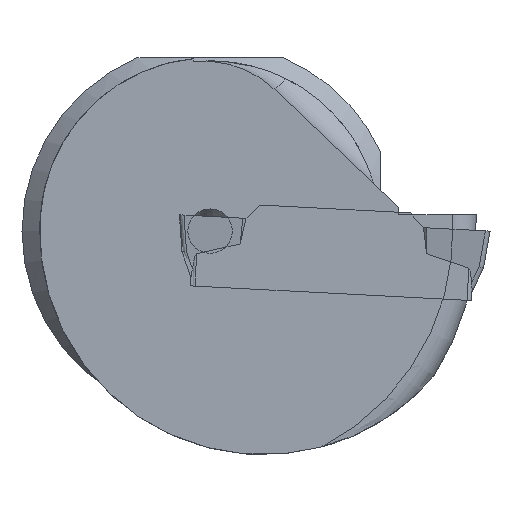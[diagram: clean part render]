
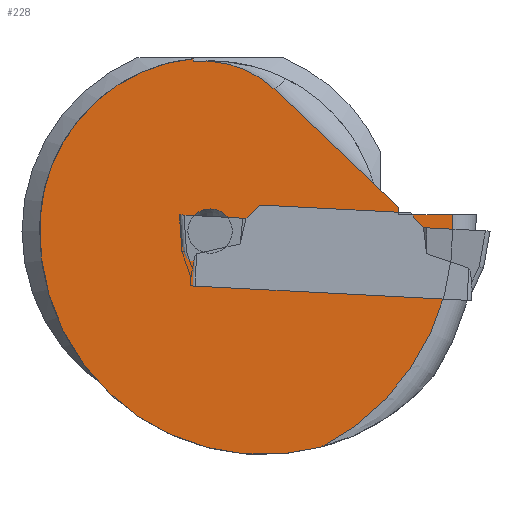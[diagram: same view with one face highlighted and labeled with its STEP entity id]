
A CAD part, left-side view. The second image highlights one B-rep face of the part: STEP entity #228.
In plain terms, the highlighted planar face has unit normal (-1, 0, 0).
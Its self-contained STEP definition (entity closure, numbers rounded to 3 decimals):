
#104=FACE_BOUND('',#376,.T.);
#105=FACE_BOUND('',#377,.T.);
#173=CIRCLE('',#1225,1.5);
#174=CIRCLE('',#1226,7.);
#175=CIRCLE('',#1227,11.5);
#176=CIRCLE('',#1228,15.1);
#177=CIRCLE('',#1229,16.4);
#228=ADVANCED_FACE('',(#104,#105),#278,.F.);
#278=PLANE('',#1230);
#376=EDGE_LOOP('',(#623));
#377=EDGE_LOOP('',(#624,#625,#626,#627,#628,#629,#630,#631));
#623=ORIENTED_EDGE('',*,*,#935,.T.);
#624=ORIENTED_EDGE('',*,*,#936,.T.);
#625=ORIENTED_EDGE('',*,*,#937,.T.);
#626=ORIENTED_EDGE('',*,*,#938,.T.);
#627=ORIENTED_EDGE('',*,*,#939,.F.);
#628=ORIENTED_EDGE('',*,*,#940,.T.);
#629=ORIENTED_EDGE('',*,*,#941,.F.);
#630=ORIENTED_EDGE('',*,*,#942,.T.);
#631=ORIENTED_EDGE('',*,*,#943,.T.);
#800=VERTEX_POINT('',#1814);
#801=VERTEX_POINT('',#1816);
#802=VERTEX_POINT('',#1817);
#803=VERTEX_POINT('',#1819);
#804=VERTEX_POINT('',#1821);
#805=VERTEX_POINT('',#1823);
#806=VERTEX_POINT('',#1825);
#807=VERTEX_POINT('',#1827);
#808=VERTEX_POINT('',#1829);
#935=EDGE_CURVE('',#800,#800,#173,.T.);
#936=EDGE_CURVE('',#801,#802,#174,.T.);
#937=EDGE_CURVE('',#802,#803,#1052,.T.);
#938=EDGE_CURVE('',#803,#804,#175,.T.);
#939=EDGE_CURVE('',#805,#804,#176,.T.);
#940=EDGE_CURVE('',#805,#806,#177,.T.);
#941=EDGE_CURVE('',#807,#806,#1053,.T.);
#942=EDGE_CURVE('',#807,#808,#1054,.T.);
#943=EDGE_CURVE('',#808,#801,#1055,.T.);
#1052=LINE('',#1818,#1139);
#1053=LINE('',#1826,#1140);
#1054=LINE('',#1828,#1141);
#1055=LINE('',#1830,#1142);
#1139=VECTOR('',#1476,1.);
#1140=VECTOR('',#1483,1.);
#1141=VECTOR('',#1484,1.);
#1142=VECTOR('',#1485,1.);
#1225=AXIS2_PLACEMENT_3D('',#1813,#1472,#1473);
#1226=AXIS2_PLACEMENT_3D('',#1815,#1474,#1475);
#1227=AXIS2_PLACEMENT_3D('',#1820,#1477,#1478);
#1228=AXIS2_PLACEMENT_3D('',#1822,#1479,#1480);
#1229=AXIS2_PLACEMENT_3D('',#1824,#1481,#1482);
#1230=AXIS2_PLACEMENT_3D('',#1831,#1486,#1487);
#1472=DIRECTION('',(1.,0.,0.));
#1473=DIRECTION('',(0.,1.,0.));
#1474=DIRECTION('',(-1.,0.,0.));
#1475=DIRECTION('',(0.,-1.,0.));
#1476=DIRECTION('',(0.,0.098,0.995));
#1477=DIRECTION('',(-1.,0.,0.));
#1478=DIRECTION('',(0.,1.,0.));
#1479=DIRECTION('',(1.,0.,0.));
#1480=DIRECTION('',(0.,1.,0.));
#1481=DIRECTION('',(-1.,0.,0.));
#1482=DIRECTION('',(0.,1.,0.));
#1483=DIRECTION('',(0.,-1.,0.));
#1484=DIRECTION('',(0.,0.,1.));
#1485=DIRECTION('',(0.,0.724,0.69));
#1486=DIRECTION('',(1.,0.,0.));
#1487=DIRECTION('',(0.,1.,0.));
#1813=CARTESIAN_POINT('',(0.4,18.9,0.));
#1814=CARTESIAN_POINT('',(0.4,20.4,0.));
#1815=CARTESIAN_POINT('',(0.4,19.34,4.478));
#1816=CARTESIAN_POINT('',(0.4,14.512,9.548));
#1817=CARTESIAN_POINT('',(0.4,20.024,11.445));
#1818=CARTESIAN_POINT('',(0.4,20.024,11.445));
#1819=CARTESIAN_POINT('',(0.4,20.043,11.642));
#1820=CARTESIAN_POINT('',(0.4,18.894,0.2));
#1821=CARTESIAN_POINT('',(0.4,30.377,0.839));
#1822=CARTESIAN_POINT('',(0.4,15.3,0.));
#1823=CARTESIAN_POINT('',(0.4,11.413,-14.591));
#1824=CARTESIAN_POINT('',(0.4,18.9,0.));
#1825=CARTESIAN_POINT('',(0.4,2.537,1.107));
#1826=CARTESIAN_POINT('',(0.4,6.174,1.107));
#1827=CARTESIAN_POINT('',(0.4,6.174,1.107));
#1828=CARTESIAN_POINT('',(0.4,6.174,1.107));
#1829=CARTESIAN_POINT('',(0.4,6.174,1.607));
#1830=CARTESIAN_POINT('',(0.4,6.174,1.607));
#1831=CARTESIAN_POINT('',(0.4,18.9,0.));
